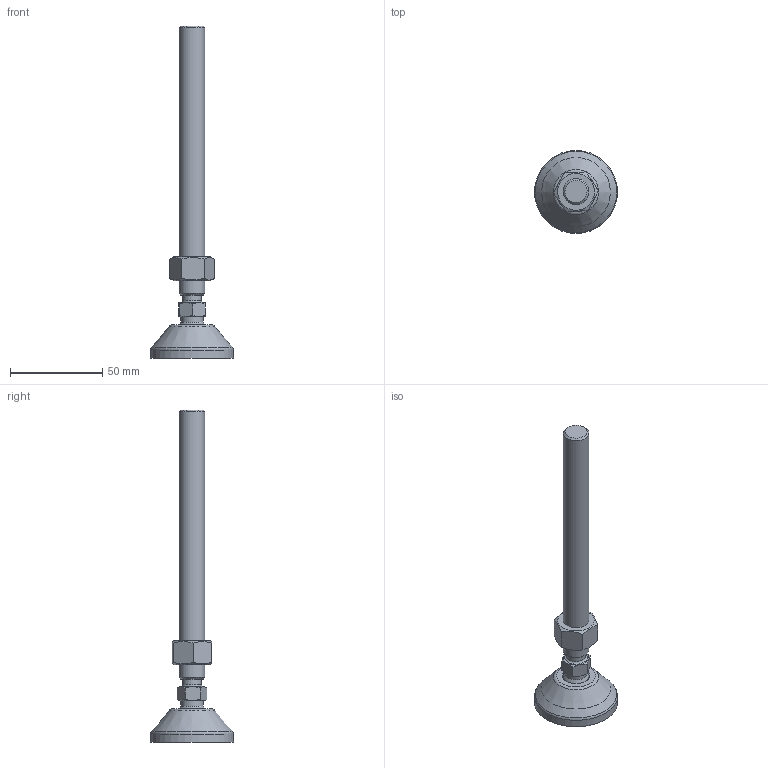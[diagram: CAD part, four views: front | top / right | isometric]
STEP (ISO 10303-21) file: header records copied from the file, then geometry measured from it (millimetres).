
FILE_DESCRIPTION(('STEP AP203'), '1');
FILE_NAME('栖闉罻', '', ('UNSPECIFIED'), ('UNSPECIFIED'), 'C3D Converter', 'C3D Toolkit', '');
FILE_SCHEMA(('CONFIG_CONTROL_DESIGN'));
Length unit declared in the file: millimetre
Products named in the file (4): A00015.1045; A00020.114150
Assembly tree (3 placements, depth 3):
  (unnamed)
    A00015.1045
    A00020.114150
      (unnamed)
Bounding box: 45 x 45 x 180 mm (x, y, z)
Volume: 41370.7 mm3; surface area: 16336.3 mm2
Topology: 3 solids, 3 shells, 141 faces, 380 edges, 250 vertices
Faces by surface type: plane 79, cylinder 26, cone 21, torus 13, sphere 2
Full cylindrical faces by diameter (mm): 10.2 x1, 11.835 x1, 12 x1, 14 x1, 14.3 x1, 15 x2, 15.5 x1, 37.3 x1, 45 x1
Entity records: 7819 total; most frequent: CARTESIAN_POINT 3055, DIRECTION 716, ORIENTED_EDGE 706, EDGE_CURVE 353, AXIS2_PLACEMENT_3D 288, VERTEX_POINT 249, EDGE_LOOP 174, FACE_BOUND 150
